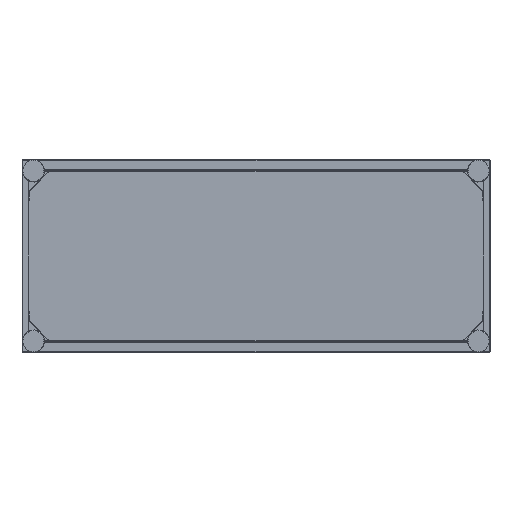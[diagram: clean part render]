
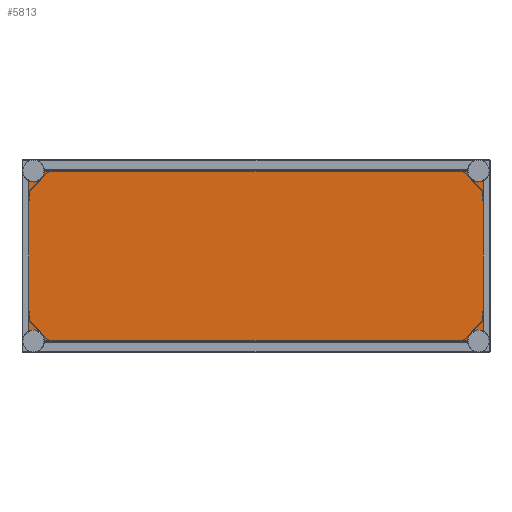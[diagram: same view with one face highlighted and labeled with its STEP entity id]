
A CAD part, front view. The second image highlights one B-rep face of the part: STEP entity #5813.
In plain terms, the highlighted planar face has unit normal (0, -1, 0).
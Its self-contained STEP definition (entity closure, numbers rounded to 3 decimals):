
#5260=CARTESIAN_POINT('',(615.85,-375.,-235.85));
#5261=DIRECTION('',(0.,1.,0.));
#5262=DIRECTION('',(-1.,0.,0.027));
#5263=AXIS2_PLACEMENT_3D('',#5260,#5261,#5262);
#5335=CARTESIAN_POINT('',(615.85,-375.,235.85));
#5336=DIRECTION('',(0.,1.,0.));
#5337=DIRECTION('',(0.422,0.,-0.907));
#5338=AXIS2_PLACEMENT_3D('',#5335,#5336,#5337);
#5416=DIRECTION('',(-1.,0.,0.));
#5417=VECTOR('',#5416,1169.423);
#5418=CARTESIAN_POINT('',(584.712,-375.,235.));
#5419=LINE('',#5418,#5417);
#5420=DIRECTION('',(0.,0.,1.));
#5421=VECTOR('',#5420,415.223);
#5422=CARTESIAN_POINT('',(629.,-375.,-207.612));
#5423=LINE('',#5422,#5421);
#5424=DIRECTION('',(1.,0.,0.));
#5425=VECTOR('',#5424,1169.423);
#5426=CARTESIAN_POINT('',(-584.712,-375.,-235.));
#5427=LINE('',#5426,#5425);
#5428=DIRECTION('',(0.,0.,-1.));
#5429=VECTOR('',#5428,415.223);
#5430=CARTESIAN_POINT('',(-629.,-375.,207.612));
#5431=LINE('',#5430,#5429);
#5454=CARTESIAN_POINT('',(-615.85,-375.,235.85));
#5455=DIRECTION('',(0.,1.,0.));
#5456=DIRECTION('',(1.,0.,-0.027));
#5457=AXIS2_PLACEMENT_3D('',#5454,#5455,#5456);
#5475=CARTESIAN_POINT('',(-615.85,-375.,-235.85));
#5476=DIRECTION('',(0.,1.,0.));
#5477=DIRECTION('',(-0.422,0.,0.907));
#5478=AXIS2_PLACEMENT_3D('',#5475,#5476,#5477);
#5574=CARTESIAN_POINT('',(-584.712,-375.,235.));
#5575=CARTESIAN_POINT('',(-629.,-375.,207.612));
#5576=VERTEX_POINT('',#5574);
#5577=VERTEX_POINT('',#5575);
#5578=CARTESIAN_POINT('',(629.,-375.,207.612));
#5579=CARTESIAN_POINT('',(584.712,-375.,235.));
#5580=VERTEX_POINT('',#5578);
#5581=VERTEX_POINT('',#5579);
#5582=CARTESIAN_POINT('',(584.712,-375.,-235.));
#5583=CARTESIAN_POINT('',(629.,-375.,-207.612));
#5584=VERTEX_POINT('',#5582);
#5585=VERTEX_POINT('',#5583);
#5586=CARTESIAN_POINT('',(-629.,-375.,-207.612));
#5587=CARTESIAN_POINT('',(-584.712,-375.,-235.));
#5588=VERTEX_POINT('',#5586);
#5589=VERTEX_POINT('',#5587);
#5793=CARTESIAN_POINT('',(0.,-375.,0.));
#5794=DIRECTION('',(0.,-1.,0.));
#5795=DIRECTION('',(-1.,0.,0.));
#5796=AXIS2_PLACEMENT_3D('',#5793,#5794,#5795);
#5797=PLANE('',#5796);
#5799=ORIENTED_EDGE('',*,*,#5798,.F.);
#5801=ORIENTED_EDGE('',*,*,#5800,.F.);
#5802=ORIENTED_EDGE('',*,*,#5713,.F.);
#5803=ORIENTED_EDGE('',*,*,#5787,.F.);
#5804=ORIENTED_EDGE('',*,*,#5638,.F.);
#5806=ORIENTED_EDGE('',*,*,#5805,.F.);
#5808=ORIENTED_EDGE('',*,*,#5807,.F.);
#5810=ORIENTED_EDGE('',*,*,#5809,.F.);
#5811=EDGE_LOOP('',(#5799,#5801,#5802,#5803,#5804,#5806,#5808,#5810));
#5812=FACE_OUTER_BOUND('',#5811,.F.);
#5264=CIRCLE('',#5263,31.15);
#5339=CIRCLE('',#5338,31.15);
#5458=CIRCLE('',#5457,31.15);
#5479=CIRCLE('',#5478,31.15);
#5638=EDGE_CURVE('',#5584,#5585,#5264,.T.);
#5713=EDGE_CURVE('',#5580,#5581,#5339,.T.);
#5787=EDGE_CURVE('',#5585,#5580,#5423,.T.);
#5798=EDGE_CURVE('',#5576,#5577,#5458,.T.);
#5800=EDGE_CURVE('',#5581,#5576,#5419,.T.);
#5805=EDGE_CURVE('',#5589,#5584,#5427,.T.);
#5807=EDGE_CURVE('',#5588,#5589,#5479,.T.);
#5809=EDGE_CURVE('',#5577,#5588,#5431,.T.);
#5813=ADVANCED_FACE('',(#5812),#5797,.T.);
